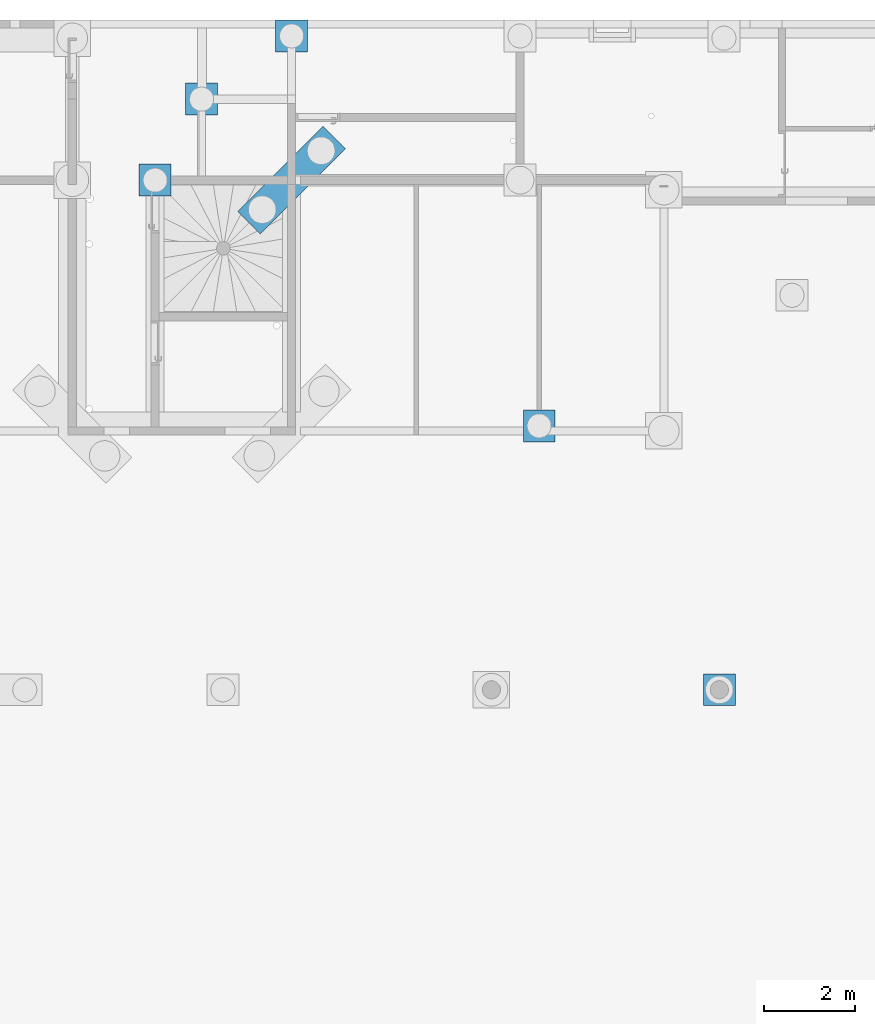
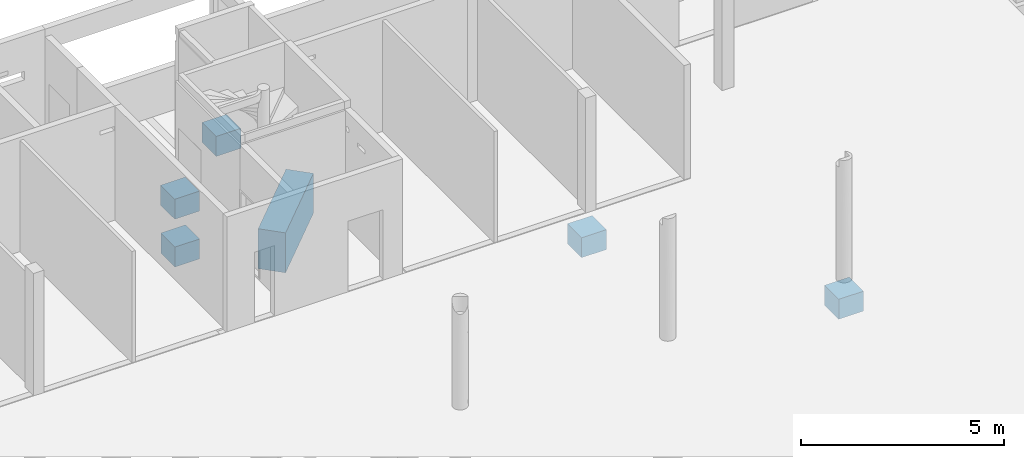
# One storey, part 19 of 29: 6 slabs.
"""IFC2X3 building model written with IfcOpenShell, lengths in centimetres."""

from ifc_helpers import new_model, entity, si_unit, converted_unit, derived_unit, direction, frame, origin, place, context, subcontext, project, spatial, faceted_brep, material, element, save


model = new_model("IFC2X3")

# Units and contexts
model_context = context("Model", 3, precision=0.001, world=origin(), true_north=direction((6.12303176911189e-17, 1.0)))
body_context = subcontext(model_context, "Body", "Model", "MODEL_VIEW")
ifc_project = project(units=[si_unit("LENGTHUNIT", "METRE", prefix="CENTI"), si_unit("AREAUNIT", "SQUARE_METRE"), si_unit("VOLUMEUNIT", "CUBIC_METRE"), converted_unit("PLANEANGLEUNIT", "DEGREE", entity("IfcRatioMeasure", 0.0174532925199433), si_unit("PLANEANGLEUNIT", "RADIAN"), dimensions=[0, 0, 0, 0, 0, 0, 0]), si_unit("MASSUNIT", "GRAM", prefix="KILO"), derived_unit("MASSDENSITYUNIT", [(si_unit("MASSUNIT", "GRAM", prefix="KILO"), 1), (si_unit("LENGTHUNIT", "METRE"), -3)]), si_unit("TIMEUNIT", "SECOND"), si_unit("FREQUENCYUNIT", "HERTZ"), si_unit("THERMODYNAMICTEMPERATUREUNIT", "DEGREE_CELSIUS"), derived_unit("THERMALTRANSMITTANCEUNIT", [(si_unit("MASSUNIT", "GRAM", prefix="KILO"), 1), (si_unit("THERMODYNAMICTEMPERATUREUNIT", "KELVIN"), -1), (si_unit("TIMEUNIT", "SECOND"), -3)]), derived_unit("VOLUMETRICFLOWRATEUNIT", [(si_unit("LENGTHUNIT", "METRE"), 3), (si_unit("TIMEUNIT", "SECOND"), -1)]), si_unit("ELECTRICCURRENTUNIT", "AMPERE"), si_unit("ELECTRICVOLTAGEUNIT", "VOLT"), si_unit("POWERUNIT", "WATT"), si_unit("FORCEUNIT", "NEWTON"), si_unit("ILLUMINANCEUNIT", "LUX"), si_unit("LUMINOUSFLUXUNIT", "LUMEN"), si_unit("LUMINOUSINTENSITYUNIT", "CANDELA"), derived_unit("USERDEFINED", [(si_unit("MASSUNIT", "GRAM", prefix="KILO"), -1), (si_unit("LENGTHUNIT", "METRE"), -2), (si_unit("TIMEUNIT", "SECOND"), 3), (si_unit("LUMINOUSFLUXUNIT", "LUMEN"), 1)]), derived_unit("LINEARVELOCITYUNIT", [(si_unit("LENGTHUNIT", "METRE"), 1), (si_unit("TIMEUNIT", "SECOND"), -1)]), si_unit("PRESSUREUNIT", "PASCAL"), derived_unit("USERDEFINED", [(si_unit("LENGTHUNIT", "METRE"), -2), (si_unit("MASSUNIT", "GRAM", prefix="KILO"), 1), (si_unit("TIMEUNIT", "SECOND"), -2)])], contexts=[model_context])

# Site, building, storey
site_placement = place(None, origin())
site = spatial("IfcSite", under=ifc_project, at=site_placement, Name="Default", CompositionType="ELEMENT")
building_placement = place(site_placement, origin())
building = spatial("IfcBuilding", under=site, at=building_placement, Name="CAGE 03", CompositionType="ELEMENT")
storey_placement = place(building_placement, frame((0.0, 0.0, -26.0)))
storey = spatial("IfcBuildingStorey", under=building, at=storey_placement, Name="+3.74", CompositionType="ELEMENT", Elevation=-26.0000000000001)

# Slabs
ifc_material = material(Name="Béton, C25/30")
slab_1_placement = place(storey_placement, frame((8227.36582014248, 3786.6606660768, -92.0)))
element("IfcSlab", 1, at=slab_1_placement, inside=storey, material=ifc_material, Name="M_Base-Rectangulaire:70x70x60ht", ObjectType="M_Base-Rectangulaire:70x70x60ht", PredefinedType="BASESLAB", context=body_context, shape_type="Brep", body=[
    faceted_brep([(70.0, 70.0, 60.0), (0.0, 70.0, 60.0), (0.0, 0.0, 60.0), (70.0, 0.0, 60.0), (0.0, 0.0, 0.0), (4.50000000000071, 35.0, 0.0), (6.73331079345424, 29.6083107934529, 0.0), (0.0, 70.0, 0.0), (8.96662158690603, 24.2166215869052, 0.0), (11.1999323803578, 18.8249323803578, 0.0), (13.4332431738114, 13.4332431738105, 0.0), (18.8249323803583, 11.1999323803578, 0.0), (24.2166215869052, 8.96662158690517, 0.0), (29.6083107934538, 6.73331079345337, 0.0), (35.0, 4.50000000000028, 0.0), (70.0, 0.0, 0.0), (6.73331079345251, 40.3916892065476, 0.0), (8.96662158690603, 45.7833784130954, 0.0), (11.1999323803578, 51.1750676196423, 0.0), (13.4332431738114, 56.5667568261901, 0.0), (18.8249323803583, 58.8000676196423, 0.0), (24.2166215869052, 61.0333784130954, 0.0), (29.6083107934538, 63.266689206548, 0.0), (35.0, 65.5000000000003, 0.0), (70.0, 70.0, 0.0), (65.5000000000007, 35.0, 0.0), (63.2666892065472, 40.3916892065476, 0.0), (61.0333784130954, 45.7833784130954, 0.0), (58.8000676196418, 51.1750676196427, 0.0), (56.5667568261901, 56.5667568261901, 0.0), (51.1750676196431, 58.8000676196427, 0.0), (45.7833784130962, 61.0333784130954, 0.0), (40.3916892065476, 63.2666892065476, 0.0), (40.3916892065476, 6.73331079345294, 0.0), (45.7833784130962, 8.96662158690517, 0.0), (51.1750676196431, 11.199932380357, 0.0), (56.5667568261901, 13.4332431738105, 0.0), (58.8000676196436, 18.8249323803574, 0.0), (61.0333784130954, 24.2166215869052, 0.0), (63.2666892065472, 29.6083107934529, 0.0), (35.0, 65.5000000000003, 5.0), (40.3916892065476, 63.266689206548, 5.0), (45.7833784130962, 61.0333784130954, 5.0), (51.1750676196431, 58.8000676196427, 5.0), (56.5667568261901, 56.5667568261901, 5.0), (59.8147856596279, 48.7253215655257, 5.0), (62.6573928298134, 41.8626607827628, 5.0), (65.5000000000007, 35.0, 5.0), (62.6573928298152, 28.1373392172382, 5.0), (61.0333784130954, 24.2166215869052, 5.0), (58.8000676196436, 18.8249323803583, 5.0), (56.5667568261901, 13.4332431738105, 5.0), (51.1750676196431, 11.1999323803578, 5.0), (45.7833784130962, 8.96662158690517, 5.0), (40.3916892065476, 6.73331079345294, 5.0), (35.0, 4.50000000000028, 5.0), (29.6083107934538, 6.73331079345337, 5.0), (24.2166215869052, 8.9666215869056, 5.0), (18.8249323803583, 11.1999323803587, 5.0), (13.4332431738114, 13.4332431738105, 5.0), (10.1852143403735, 21.2746784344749, 5.0), (7.34260717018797, 28.1373392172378, 5.0), (4.50000000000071, 35.0, 5.0), (7.34260717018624, 41.8626607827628, 5.0), (8.9666215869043, 45.7833784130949, 5.0), (11.1999323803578, 51.1750676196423, 5.0), (13.4332431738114, 56.5667568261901, 5.0), (18.8249323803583, 58.8000676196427, 5.0), (24.2166215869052, 61.0333784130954, 5.0), (29.6083107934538, 63.266689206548, 5.0)], [[[0, 1, 2, 3]], [[4, 5, 6]], [[5, 4, 7]], [[4, 6, 8]], [[4, 8, 9]], [[4, 9, 10]], [[4, 10, 11]], [[4, 11, 12]], [[4, 12, 13]], [[4, 13, 14]], [[14, 15, 4]], [[7, 16, 5]], [[7, 17, 16]], [[7, 18, 17]], [[7, 19, 18]], [[7, 20, 19]], [[7, 21, 20]], [[7, 22, 21]], [[7, 23, 22]], [[23, 7, 24]], [[25, 24, 15]], [[24, 25, 26]], [[24, 26, 27]], [[24, 27, 28]], [[24, 28, 29]], [[24, 29, 30]], [[24, 30, 31]], [[24, 31, 32]], [[24, 32, 23]], [[15, 14, 33]], [[15, 33, 34]], [[15, 34, 35]], [[15, 35, 36]], [[15, 36, 37]], [[15, 37, 38]], [[15, 38, 39]], [[15, 39, 25]], [[2, 1, 7, 4]], [[3, 2, 4, 15]], [[0, 3, 15, 24]], [[1, 0, 24, 7]], [[40, 41, 42, 43, 44, 45, 46, 47, 48, 49, 50, 51, 52, 53, 54, 55, 56, 57, 58, 59, 60, 61, 62, 63, 64, 65, 66, 67, 68, 69]], [[10, 59, 58, 57, 56, 55, 14, 13, 12, 11]], [[39, 38, 37, 36, 51, 50, 49, 48, 47, 25]], [[10, 9, 8, 6, 5, 62, 61, 60, 59]], [[33, 14, 55, 54, 53, 52, 51, 36, 35, 34]], [[29, 44, 43, 42, 41, 40, 23, 32, 31, 30]], [[16, 17, 18, 19, 66, 65, 64, 63, 62, 5]], [[29, 28, 27, 26, 25, 47, 46, 45, 44]], [[22, 23, 40, 69, 68, 67, 66, 19, 20, 21]]]),
])
slab_2_placement = place(storey_placement, frame((7287.36582014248, 5223.6606660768, -145.0)))
element("IfcSlab", 2, at=slab_2_placement, inside=storey, material=ifc_material, Name="M_Base-Rectangulaire:70x70x60ht", ObjectType="M_Base-Rectangulaire:70x70x60ht", PredefinedType="BASESLAB", context=body_context, shape_type="Brep", body=[
    faceted_brep([(44.0, 70.0, 60.0), (0.0, 70.0, 60.0), (0.0, 0.0, 60.0), (70.0, 0.0, 60.0), (70.0, 70.0, 60.0), (0.0, 0.0, 0.0), (17.2680389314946, 15.306662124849, 0.0), (22.3935302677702, 13.6412890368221, 0.0), (27.5190216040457, 11.9759159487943, 0.0), (32.644512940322, 10.3105428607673, 0.0), (37.7700042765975, 8.64516977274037, 0.0), (70.0, 0.0, 0.0), (15.0760291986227, 20.2299965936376, 0.0), (12.8840194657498, 25.1533310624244, 0.0), (10.6920097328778, 30.0766655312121, 0.0), (8.500000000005, 35.0, 0.0), (0.0, 70.0, 0.0), (11.0305248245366, 42.7881545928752, 0.0), (13.561049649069, 50.5763091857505, 0.0), (18.2282861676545, 53.2709394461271, 0.0), (22.8955226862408, 55.9655697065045, 0.0), (27.5627592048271, 58.6601999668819, 0.0), (32.2299957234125, 61.3548302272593, 0.0), (70.0, 70.0, 0.0), (61.5000000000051, 35.0, 0.0), (59.3079902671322, 39.9233344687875, 0.0), (37.3554870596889, 59.6894571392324, 0.0), (42.4809783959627, 58.0240840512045, 0.0), (47.606469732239, 56.3587109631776, 0.0), (52.7319610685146, 54.6933378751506, 0.0), (57.1159805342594, 44.8466689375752, 0.0), (54.9239708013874, 49.7700034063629, 0.0), (42.4372407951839, 11.3398000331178, 0.0), (47.1044773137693, 14.0344302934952, 0.0), (51.7717138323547, 16.7290605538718, 0.0), (56.438950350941, 19.4236908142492, 0.0), (58.9694751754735, 27.2118454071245, 0.0), (8.500000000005, 35.0, 5.0), (10.692009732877, 39.9233344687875, 5.0), (12.8840194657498, 44.8466689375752, 5.0), (15.0760291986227, 49.7700034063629, 5.0), (17.2680389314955, 54.6933378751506, 5.0), (22.393530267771, 56.3587109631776, 5.0), (27.5190216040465, 58.0240840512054, 5.0), (32.644512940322, 59.6894571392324, 5.0), (37.7700042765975, 61.3548302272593, 5.0), (42.4372407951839, 58.6601999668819, 5.0), (47.1044773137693, 55.9655697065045, 5.0), (51.7717138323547, 53.2709394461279, 5.0), (56.438950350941, 50.5763091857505, 5.0), (58.9694751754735, 42.7881545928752, 5.0), (61.5000000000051, 35.0, 5.0), (59.3079902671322, 30.0766655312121, 5.0), (57.1159805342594, 25.1533310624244, 5.0), (54.9239708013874, 20.2299965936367, 5.0), (52.7319610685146, 15.306662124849, 5.0), (47.606469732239, 13.6412890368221, 5.0), (42.4809783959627, 11.9759159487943, 5.0), (37.3554870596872, 10.3105428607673, 5.0), (32.2299957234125, 8.64516977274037, 5.0), (27.5627592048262, 11.3398000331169, 5.0), (22.8955226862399, 14.0344302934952, 5.0), (18.2282861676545, 16.7290605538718, 5.0), (13.561049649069, 19.4236908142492, 5.0), (11.0305248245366, 27.2118454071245, 5.0)], [[[0, 1, 2, 3, 4]], [[5, 6, 7]], [[5, 7, 8]], [[5, 8, 9]], [[5, 9, 10]], [[5, 10, 11]], [[5, 12, 6]], [[5, 13, 12]], [[5, 14, 13]], [[5, 15, 14]], [[16, 15, 5]], [[16, 17, 15]], [[16, 18, 17]], [[16, 19, 18]], [[16, 20, 19]], [[16, 21, 20]], [[16, 22, 21]], [[23, 22, 16]], [[11, 24, 23]], [[23, 24, 25]], [[23, 26, 22]], [[23, 27, 26]], [[23, 28, 27]], [[23, 29, 28]], [[23, 25, 30]], [[23, 30, 31]], [[23, 31, 29]], [[11, 10, 32]], [[11, 32, 33]], [[11, 33, 34]], [[11, 34, 35]], [[11, 35, 36]], [[11, 36, 24]], [[2, 1, 16, 5]], [[3, 2, 5, 11]], [[4, 3, 11, 23]], [[0, 4, 23, 16, 1]], [[37, 38, 39, 40, 41, 42, 43, 44, 45, 46, 47, 48, 49, 50, 51, 52, 53, 54, 55, 56, 57, 58, 59, 60, 61, 62, 63, 64]], [[12, 13, 63]], [[64, 14, 37]], [[64, 63, 13]], [[63, 62, 12]], [[36, 35, 53]], [[60, 59, 8]], [[37, 14, 15]], [[33, 56, 34]], [[7, 6, 61]], [[35, 34, 55]], [[36, 52, 24]], [[8, 59, 9]], [[61, 6, 62]], [[13, 14, 64]], [[58, 9, 59]], [[62, 6, 12]], [[57, 56, 33]], [[7, 60, 8]], [[55, 34, 56]], [[54, 53, 35, 55]], [[58, 10, 9]], [[32, 10, 57, 33]], [[7, 61, 60]], [[51, 24, 52]], [[58, 57, 10]], [[36, 53, 52]], [[31, 30, 49]], [[50, 25, 51]], [[50, 49, 30]], [[49, 48, 31]], [[47, 29, 48]], [[46, 28, 47]], [[51, 25, 24]], [[22, 44, 21]], [[46, 45, 27]], [[40, 39, 18, 41]], [[17, 38, 15]], [[27, 45, 26]], [[30, 25, 50]], [[44, 22, 26]], [[48, 29, 31]], [[43, 42, 20]], [[28, 29, 47]], [[17, 18, 39]], [[46, 27, 28]], [[37, 15, 38]], [[43, 21, 44]], [[41, 19, 42]], [[20, 42, 19]], [[41, 18, 19]], [[44, 26, 45]], [[43, 20, 21]], [[17, 39, 38]]]),
])
slab_3_placement = place(storey_placement, frame((7089.36582014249, 5084.6606660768, -180.0)))
element("IfcSlab", 3, at=slab_3_placement, inside=storey, material=ifc_material, Name="M_Base-Rectangulaire:70x70x60ht", ObjectType="M_Base-Rectangulaire:70x70x60ht", PredefinedType="BASESLAB", context=body_context, shape_type="Brep", body=[
    faceted_brep([(70.0, 70.0, 60.0), (0.0, 70.0, 60.0), (0.0, 0.0, 60.0), (70.0, 0.0, 60.0), (0.0, 0.0, 0.0), (8.50000000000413, 35.0, 0.0), (10.692009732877, 30.0766655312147, 0.0), (0.0, 70.0, 0.0), (12.884019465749, 25.153331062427, 0.0), (15.0760291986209, 20.2299965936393, 0.0), (17.2680389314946, 15.3066621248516, 0.0), (22.3935302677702, 13.6412890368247, 0.0), (27.5190216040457, 11.9759159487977, 0.0), (32.6445129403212, 10.3105428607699, 0.0), (37.7700042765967, 8.64516977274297, 0.0), (70.0, 0.0, 0.0), (11.0305248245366, 42.7881545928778, 0.0), (13.5610496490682, 50.5763091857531, 0.0), (18.2282861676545, 53.2709394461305, 0.0), (22.8955226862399, 55.9655697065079, 0.0), (27.5627592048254, 58.6601999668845, 0.0), (32.2299957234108, 61.3548302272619, 0.0), (70.0, 70.0, 0.0), (61.5000000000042, 35.0, 0.0), (59.3079902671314, 39.9233344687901, 0.0), (57.1159805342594, 44.8466689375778, 0.0), (54.9239708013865, 49.7700034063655, 0.0), (52.7319610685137, 54.6933378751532, 0.0), (47.6064697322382, 56.3587109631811, 0.0), (42.4809783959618, 58.0240840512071, 0.0), (37.3554870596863, 59.689457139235, 0.0), (42.4372407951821, 11.3398000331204, 0.0), (47.1044773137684, 14.0344302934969, 0.0), (51.7717138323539, 16.7290605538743, 0.0), (56.4389503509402, 19.4236908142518, 0.0), (58.9694751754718, 27.2118454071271, 0.0), (8.50000000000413, 35.0, 5.0), (11.3061340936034, 28.6973196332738, 5.0), (14.1122681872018, 22.3946392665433, 5.0), (17.2680389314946, 15.3066621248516, 5.0), (37.7700042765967, 8.64516977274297, 5.0), (42.4372407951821, 11.3398000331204, 5.0), (47.1044773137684, 14.0344302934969, 5.0), (51.7717138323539, 16.7290605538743, 5.0), (56.4389503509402, 19.4236908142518, 5.0), (32.6445129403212, 10.3105428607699, 5.0), (22.3935302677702, 13.6412890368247, 5.0), (27.5190216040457, 11.9759159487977, 5.0), (58.9694751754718, 27.2118454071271, 5.0), (61.5000000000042, 35.0, 5.0), (58.6938659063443, 41.3026803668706, 5.0), (55.8877318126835, 47.6053607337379, 5.0), (52.7319610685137, 54.6933378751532, 5.0), (32.2299957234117, 61.3548302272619, 5.0), (27.5627592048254, 58.6601999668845, 5.0), (22.8955226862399, 55.9655697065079, 5.0), (18.2282861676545, 53.2709394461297, 5.0), (13.5610496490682, 50.5763091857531, 5.0), (37.3554870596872, 59.689457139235, 5.0), (47.6064697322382, 56.3587109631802, 5.0), (42.4809783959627, 58.0240840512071, 5.0), (11.0305248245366, 42.7881545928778, 5.0)], [[[0, 1, 2, 3]], [[4, 5, 6]], [[5, 4, 7]], [[4, 6, 8]], [[4, 8, 9]], [[4, 9, 10]], [[4, 10, 11]], [[4, 11, 12]], [[4, 12, 13]], [[4, 13, 14]], [[14, 15, 4]], [[7, 16, 5]], [[7, 17, 16]], [[7, 18, 17]], [[7, 19, 18]], [[7, 20, 19]], [[7, 21, 20]], [[21, 7, 22]], [[23, 22, 15]], [[22, 23, 24]], [[22, 24, 25]], [[22, 25, 26]], [[22, 26, 27]], [[22, 27, 28]], [[22, 28, 29]], [[22, 29, 30]], [[22, 30, 21]], [[15, 14, 31]], [[15, 31, 32]], [[15, 32, 33]], [[15, 33, 34]], [[15, 34, 35]], [[15, 35, 23]], [[2, 1, 7, 4]], [[3, 2, 4, 15]], [[0, 3, 15, 22]], [[1, 0, 22, 7]], [[10, 9, 8, 6, 5, 36, 37, 38, 39]], [[33, 32, 31, 14, 40, 41, 42, 43, 44, 34]], [[45, 40, 14, 13, 12, 11, 10, 39, 46, 47]], [[35, 34, 44, 48, 49, 23]], [[27, 26, 25, 24, 23, 49, 50, 51, 52]], [[18, 19, 20, 21, 53, 54, 55, 56, 57, 17]], [[58, 53, 21, 30, 29, 28, 27, 52, 59, 60]], [[16, 17, 57, 61, 36, 5]], [[39, 38, 37, 36, 61, 57, 56, 55, 54, 53, 58, 60, 59, 52, 51, 50, 49, 48, 44, 43, 42, 41, 40, 45, 47, 46]]]),
])
slab_4_placement = place(storey_placement, frame((7203.92543429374, 4823.22028022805, -240.0)))
element("IfcSlab", 4, at=slab_4_placement, inside=storey, material=ifc_material, Name="M_Base-Rectangulaire:265x70x120ht", ObjectType="M_Base-Rectangulaire:265x70x120ht", PredefinedType="BASESLAB", context=body_context, shape_type="Brep", body=[
    faceted_brep([(187.383297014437, 236.880771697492, 120.0), (0.0, 49.4974746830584, 120.0), (49.4974746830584, 0.0, 120.0), (236.880771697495, 187.383297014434, 120.0), (49.4974746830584, 0.0, 0.0), (75.3068721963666, 32.1733585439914, 0.0), (204.707413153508, 161.573899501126, 0.0), (236.880771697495, 187.383297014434, 0.0), (69.9151829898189, 29.9400477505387, 0.0), (64.523493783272, 27.7067369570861, 0.0), (59.1318045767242, 25.4734261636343, 0.0), (53.7401153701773, 23.2401153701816, 0.0), (48.3484261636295, 25.4734261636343, 0.0), (42.9567369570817, 27.7067369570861, 0.0), (37.5650477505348, 29.9400477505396, 0.0), (32.1733585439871, 32.1733585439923, 0.0), (0.0, 49.4974746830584, 0.0), (29.9400477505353, 37.56504775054, 0.0), (27.7067369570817, 42.9567369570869, 0.0), (25.4734261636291, 48.3484261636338, 0.0), (23.2401153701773, 53.7401153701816, 0.0), (25.4734261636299, 59.1318045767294, 0.0), (27.7067369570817, 64.5234937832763, 0.0), (29.9400477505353, 69.9151829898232, 0.0), (32.1733585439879, 75.306872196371, 0.0), (161.573899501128, 204.707413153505, 0.0), (187.383297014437, 236.880771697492, 0.0), (204.707413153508, 204.707413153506, 0.0), (199.315723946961, 206.940723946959, 0.0), (166.965588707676, 206.940723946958, 0.0), (172.357277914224, 209.174034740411, 0.0), (177.748967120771, 211.407345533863, 0.0), (183.140656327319, 213.640656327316, 0.0), (193.924034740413, 209.174034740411, 0.0), (188.532345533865, 211.407345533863, 0.0), (159.340588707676, 199.315723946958, 0.0), (157.107277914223, 193.924034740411, 0.0), (154.873967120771, 188.532345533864, 0.0), (152.640656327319, 183.140656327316, 0.0), (37.5650477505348, 77.5401829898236, 0.0), (42.9567369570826, 79.7734937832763, 0.0), (48.3484261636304, 82.0068045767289, 0.0), (53.7401153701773, 84.2401153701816, 0.0), (59.1318045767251, 82.0068045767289, 0.0), (64.523493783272, 79.7734937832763, 0.0), (69.9151829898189, 77.5401829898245, 0.0), (75.3068721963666, 75.3068721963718, 0.0), (154.873967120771, 177.748967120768, 0.0), (157.107277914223, 172.357277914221, 0.0), (159.340588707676, 166.965588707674, 0.0), (161.573899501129, 161.573899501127, 0.0), (166.965588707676, 159.340588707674, 0.0), (172.357277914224, 157.107277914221, 0.0), (177.748967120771, 154.873967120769, 0.0), (183.140656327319, 152.640656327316, 0.0), (77.5401829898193, 37.5650477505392, 0.0), (188.532345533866, 154.873967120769, 0.0), (77.5401829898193, 69.915182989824, 0.0), (79.7734937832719, 64.5234937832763, 0.0), (82.0068045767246, 59.1318045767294, 0.0), (84.2401153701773, 53.7401153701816, 0.0), (79.7734937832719, 42.9567369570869, 0.0), (82.0068045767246, 48.3484261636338, 0.0), (193.924034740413, 157.10727791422, 0.0), (199.31572394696, 159.340588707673, 0.0), (206.940723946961, 166.965588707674, 0.0), (209.174034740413, 172.357277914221, 0.0), (211.407345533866, 177.748967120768, 0.0), (213.640656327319, 183.140656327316, 0.0), (211.407345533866, 188.532345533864, 0.0), (209.174034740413, 193.924034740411, 0.0), (206.940723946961, 199.315723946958, 0.0), (32.1733585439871, 32.1733585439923, 5.0), (37.565047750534, 29.9400477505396, 5.0), (42.9567369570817, 27.7067369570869, 5.0), (48.3484261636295, 25.4734261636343, 5.0), (53.7401153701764, 23.2401153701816, 5.0), (75.3068721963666, 32.1733585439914, 5.0), (77.5401829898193, 37.5650477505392, 5.0), (79.7734937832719, 42.9567369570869, 5.0), (81.3975081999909, 46.8774545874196, 5.0), (84.2401153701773, 53.7401153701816, 5.0), (23.2401153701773, 53.7401153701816, 5.0), (26.0827225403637, 46.8774545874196, 5.0), (28.9253297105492, 40.0147938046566, 5.0), (59.1318045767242, 25.4734261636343, 5.0), (64.523493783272, 27.7067369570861, 5.0), (69.9151829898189, 29.9400477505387, 5.0), (75.3068721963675, 75.306872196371, 5.0), (69.9151829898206, 77.5401829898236, 5.0), (64.5234937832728, 79.7734937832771, 5.0), (59.1318045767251, 82.0068045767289, 5.0), (53.7401153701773, 84.2401153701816, 5.0), (32.1733585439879, 75.3068721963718, 5.0), (29.9400477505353, 69.9151829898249, 5.0), (27.7067369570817, 64.5234937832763, 5.0), (26.0827225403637, 60.6027761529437, 5.0), (81.3975081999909, 60.6027761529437, 5.0), (78.5549010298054, 67.4654369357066, 5.0), (48.3484261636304, 82.0068045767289, 5.0), (42.9567369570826, 79.7734937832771, 5.0), (37.5650477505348, 77.5401829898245, 5.0), (161.573899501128, 161.573899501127, 5.0), (166.965588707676, 159.340588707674, 5.0), (172.357277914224, 157.107277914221, 5.0), (177.748967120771, 154.873967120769, 5.0), (183.140656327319, 152.640656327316, 5.0), (204.707413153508, 161.573899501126, 5.0), (206.940723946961, 166.965588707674, 5.0), (209.174034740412, 172.357277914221, 5.0), (210.798049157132, 176.277995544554, 5.0), (213.640656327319, 183.140656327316, 5.0), (152.640656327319, 183.140656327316, 5.0), (155.483263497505, 176.277995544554, 5.0), (158.325870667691, 169.41533476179, 5.0), (188.532345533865, 154.873967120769, 5.0), (193.924034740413, 157.10727791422, 5.0), (199.315723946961, 159.340588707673, 5.0), (204.707413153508, 204.707413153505, 5.0), (199.315723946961, 206.940723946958, 5.0), (193.924034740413, 209.174034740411, 5.0), (188.532345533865, 211.407345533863, 5.0), (183.140656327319, 213.640656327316, 5.0), (161.573899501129, 204.707413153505, 5.0), (159.340588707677, 199.315723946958, 5.0), (157.107277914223, 193.924034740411, 5.0), (155.483263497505, 190.003317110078, 5.0), (210.798049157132, 190.003317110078, 5.0), (207.955441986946, 196.865977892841, 5.0), (177.748967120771, 211.407345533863, 5.0), (172.357277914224, 209.174034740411, 5.0), (166.965588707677, 206.940723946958, 5.0)], [[[0, 1, 2, 3]], [[4, 5, 6]], [[6, 7, 4]], [[4, 8, 5]], [[4, 9, 8]], [[4, 10, 9]], [[4, 11, 10]], [[4, 12, 11]], [[4, 13, 12]], [[4, 14, 13]], [[4, 15, 14]], [[15, 4, 16]], [[16, 17, 15]], [[16, 18, 17]], [[16, 19, 18]], [[16, 20, 19]], [[16, 21, 20]], [[16, 22, 21]], [[16, 23, 22]], [[16, 24, 23]], [[24, 16, 25]], [[26, 25, 16]], [[27, 26, 7]], [[26, 27, 28]], [[26, 29, 25]], [[26, 30, 29]], [[26, 31, 30]], [[26, 32, 31]], [[26, 28, 33]], [[26, 33, 34]], [[26, 34, 32]], [[24, 25, 35]], [[24, 35, 36]], [[24, 36, 37]], [[24, 37, 38]], [[38, 39, 24]], [[38, 40, 39]], [[38, 41, 40]], [[38, 42, 41]], [[38, 43, 42]], [[38, 44, 43]], [[38, 45, 44]], [[38, 46, 45]], [[46, 38, 47]], [[46, 47, 48]], [[46, 48, 49]], [[46, 49, 50]], [[46, 50, 51]], [[46, 51, 52]], [[46, 52, 53]], [[46, 53, 54]], [[54, 5, 55]], [[5, 54, 56]], [[54, 57, 46]], [[54, 58, 57]], [[54, 59, 58]], [[54, 60, 59]], [[54, 55, 61]], [[54, 61, 62]], [[54, 62, 60]], [[5, 56, 63]], [[5, 63, 64]], [[5, 64, 6]], [[7, 6, 65]], [[7, 65, 66]], [[7, 66, 67]], [[7, 67, 68]], [[7, 68, 69]], [[7, 69, 70]], [[7, 70, 71]], [[7, 71, 27]], [[2, 1, 16, 4]], [[3, 2, 4, 7]], [[0, 3, 7, 26]], [[1, 0, 26, 16]], [[15, 72, 73, 74, 75, 76, 11, 12, 13, 14]], [[62, 61, 55, 5, 77, 78, 79, 80, 81, 60]], [[15, 17, 18, 19, 20, 82, 83, 84, 72]], [[10, 11, 76, 85, 86, 87, 77, 5, 8, 9]], [[46, 88, 89, 90, 91, 92, 42, 43, 44, 45]], [[21, 22, 23, 24, 93, 94, 95, 96, 82, 20]], [[46, 57, 58, 59, 60, 81, 97, 98, 88]], [[41, 42, 92, 99, 100, 101, 93, 24, 39, 40]], [[50, 102, 103, 104, 105, 106, 54, 53, 52, 51]], [[67, 66, 65, 6, 107, 108, 109, 110, 111, 68]], [[50, 49, 48, 47, 38, 112, 113, 114, 102]], [[56, 54, 106, 115, 116, 117, 107, 6, 64, 63]], [[27, 118, 119, 120, 121, 122, 32, 34, 33, 28]], [[37, 36, 35, 25, 123, 124, 125, 126, 112, 38]], [[27, 71, 70, 69, 68, 111, 127, 128, 118]], [[31, 32, 122, 129, 130, 131, 123, 25, 29, 30]], [[92, 91, 90, 89, 88, 98, 97, 81, 80, 79, 78, 77, 87, 86, 85, 76, 75, 74, 73, 72, 84, 83, 82, 96, 95, 94, 93, 101, 100, 99]], [[122, 121, 120, 119, 118, 128, 127, 111, 110, 109, 108, 107, 117, 116, 115, 106, 105, 104, 103, 102, 114, 113, 112, 126, 125, 124, 123, 131, 130, 129]]]),
])
slab_5_placement = place(storey_placement, frame((6987.36582014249, 4906.6606660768, -180.0)))
element("IfcSlab", 5, at=slab_5_placement, inside=storey, material=ifc_material, Name="M_Base-Rectangulaire:70x70x60ht", ObjectType="M_Base-Rectangulaire:70x70x60ht", PredefinedType="BASESLAB", context=body_context, shape_type="Brep", body=[
    faceted_brep([(70.0, 70.0, 60.0), (0.0, 70.0, 60.0), (0.0, 0.0, 60.0), (70.0, 0.0, 60.0), (0.0, 0.0, 0.0), (8.50000000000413, 35.0, 0.0), (10.692009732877, 30.0766655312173, 0.0), (0.0, 70.0, 0.0), (12.884019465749, 25.1533310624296, 0.0), (15.0760291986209, 20.2299965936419, 0.0), (17.2680389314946, 15.3066621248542, 0.0), (22.3935302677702, 13.6412890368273, 0.0), (27.5190216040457, 11.9759159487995, 0.0), (32.6445129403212, 10.3105428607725, 0.0), (37.7700042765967, 8.64516977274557, 0.0), (70.0, 0.0, 0.0), (11.0305248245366, 42.7881545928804, 0.0), (13.5610496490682, 50.5763091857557, 0.0), (18.2282861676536, 53.2709394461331, 0.0), (22.8955226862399, 55.9655697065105, 0.0), (27.5627592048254, 58.6601999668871, 0.0), (32.2299957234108, 61.3548302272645, 0.0), (70.0, 70.0, 0.0), (61.5000000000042, 35.0, 0.0), (59.3079902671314, 39.9233344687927, 0.0), (57.1159805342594, 44.8466689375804, 0.0), (54.9239708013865, 49.7700034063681, 0.0), (52.7319610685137, 54.6933378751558, 0.0), (47.6064697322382, 56.3587109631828, 0.0), (42.4809783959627, 58.0240840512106, 0.0), (37.3554870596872, 59.6894571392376, 0.0), (42.437240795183, 11.339800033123, 0.0), (47.1044773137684, 14.0344302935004, 0.0), (51.7717138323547, 16.7290605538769, 0.0), (56.4389503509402, 19.4236908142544, 0.0), (58.9694751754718, 27.2118454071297, 0.0), (8.50000000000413, 35.0, 5.0), (10.692009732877, 39.9233344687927, 5.0), (12.884019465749, 44.8466689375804, 5.0), (15.0760291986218, 49.7700034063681, 5.0), (17.2680389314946, 54.6933378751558, 5.0), (22.3935302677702, 56.3587109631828, 5.0), (27.5190216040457, 58.0240840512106, 5.0), (32.6445129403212, 59.6894571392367, 5.0), (37.7700042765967, 61.3548302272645, 5.0), (42.437240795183, 58.660199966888, 5.0), (47.1044773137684, 55.9655697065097, 5.0), (51.7717138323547, 53.2709394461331, 5.0), (56.4389503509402, 50.5763091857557, 5.0), (58.9694751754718, 42.7881545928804, 5.0), (61.5000000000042, 35.0, 5.0), (59.3079902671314, 30.0766655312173, 5.0), (57.1159805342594, 25.1533310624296, 5.0), (54.9239708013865, 20.2299965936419, 5.0), (52.7319610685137, 15.3066621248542, 5.0), (47.6064697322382, 13.6412890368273, 5.0), (42.4809783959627, 11.9759159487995, 5.0), (37.3554870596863, 10.3105428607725, 5.0), (32.2299957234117, 8.64516977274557, 5.0), (27.5627592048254, 11.339800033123, 5.0), (22.895522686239, 14.0344302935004, 5.0), (18.2282861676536, 16.7290605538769, 5.0), (13.5610496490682, 19.4236908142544, 5.0), (11.0305248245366, 27.2118454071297, 5.0)], [[[0, 1, 2, 3]], [[4, 5, 6]], [[5, 4, 7]], [[4, 6, 8]], [[4, 8, 9]], [[4, 9, 10]], [[4, 10, 11]], [[4, 11, 12]], [[4, 12, 13]], [[4, 13, 14]], [[14, 15, 4]], [[7, 16, 5]], [[7, 17, 16]], [[7, 18, 17]], [[7, 19, 18]], [[7, 20, 19]], [[7, 21, 20]], [[21, 7, 22]], [[23, 22, 15]], [[22, 23, 24]], [[22, 24, 25]], [[22, 25, 26]], [[22, 26, 27]], [[22, 27, 28]], [[22, 28, 29]], [[22, 29, 30]], [[22, 30, 21]], [[15, 14, 31]], [[15, 31, 32]], [[15, 32, 33]], [[15, 33, 34]], [[15, 34, 35]], [[15, 35, 23]], [[2, 1, 7, 4]], [[3, 2, 4, 15]], [[0, 3, 15, 22]], [[1, 0, 22, 7]], [[36, 37, 38, 39, 40, 41, 42, 43, 44, 45, 46, 47, 48, 49, 50, 51, 52, 53, 54, 55, 56, 57, 58, 59, 60, 61, 62, 63]], [[9, 8, 62]], [[63, 6, 36]], [[63, 62, 8]], [[62, 61, 9]], [[35, 34, 52]], [[59, 58, 12]], [[36, 6, 5]], [[32, 55, 33]], [[11, 10, 60]], [[34, 33, 54]], [[35, 51, 23]], [[12, 58, 13]], [[60, 10, 61]], [[8, 6, 63]], [[57, 13, 58]], [[61, 10, 9]], [[56, 55, 32]], [[11, 59, 12]], [[54, 33, 55]], [[53, 52, 34, 54]], [[57, 14, 13]], [[31, 14, 56, 32]], [[11, 60, 59]], [[50, 23, 51]], [[57, 56, 14]], [[35, 52, 51]], [[26, 25, 48]], [[49, 24, 50]], [[49, 48, 25]], [[48, 47, 26]], [[46, 27, 47]], [[45, 28, 46]], [[50, 24, 23]], [[21, 43, 20]], [[45, 44, 29]], [[39, 38, 17, 40]], [[16, 37, 5]], [[29, 44, 30]], [[25, 24, 49]], [[43, 21, 30]], [[47, 27, 26]], [[42, 41, 19]], [[28, 27, 46]], [[16, 17, 38]], [[45, 29, 28]], [[36, 5, 37]], [[42, 20, 43]], [[40, 18, 41]], [[19, 41, 18]], [[40, 17, 18]], [[43, 30, 44]], [[42, 19, 20]], [[16, 38, 37]]]),
])
slab_6_placement = place(storey_placement, frame((7831.36582014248, 4366.6606660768, -120.0)))
element("IfcSlab", 6, at=slab_6_placement, inside=storey, material=ifc_material, Name="M_Base-Rectangulaire:70x70x60ht", ObjectType="M_Base-Rectangulaire:70x70x60ht", PredefinedType="BASESLAB", context=body_context, shape_type="Brep", body=[
    faceted_brep([(70.0, 70.0, 60.0), (0.0, 70.0, 60.0), (0.0, 0.0, 60.0), (70.0, 0.0, 60.0), (0.0, 0.0, 0.0), (17.2680389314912, 15.306662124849, 0.0), (22.3935302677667, 13.6412890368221, 0.0), (27.5190216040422, 11.9759159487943, 0.0), (32.6445129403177, 10.3105428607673, 0.0), (37.7700042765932, 8.64516977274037, 0.0), (70.0, 0.0, 0.0), (15.0760291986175, 20.2299965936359, 0.0), (12.8840194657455, 25.1533310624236, 0.0), (10.6920097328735, 30.0766655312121, 0.0), (8.50000000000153, 35.0, 0.0), (0.0, 70.0, 0.0), (11.0305248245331, 42.788154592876, 0.0), (13.5610496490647, 50.5763091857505, 0.0), (18.2282861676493, 53.2709394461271, 0.0), (22.8955226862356, 55.9655697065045, 0.0), (27.5627592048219, 58.6601999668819, 0.0), (32.2299957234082, 61.3548302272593, 0.0), (70.0, 70.0, 0.0), (61.4999999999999, 35.0, 0.0), (59.3079902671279, 39.9233344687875, 0.0), (37.3554870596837, 59.6894571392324, 0.0), (42.4809783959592, 58.0240840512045, 0.0), (47.6064697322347, 56.3587109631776, 0.0), (52.7319610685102, 54.6933378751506, 0.0), (57.1159805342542, 44.8466689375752, 0.0), (54.9239708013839, 49.7700034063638, 0.0), (42.4372407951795, 11.3398000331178, 0.0), (47.1044773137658, 14.0344302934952, 0.0), (51.7717138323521, 16.7290605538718, 0.0), (56.4389503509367, 19.4236908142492, 0.0), (58.9694751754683, 27.2118454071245, 0.0), (8.4999999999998, 35.0, 5.0), (10.6920097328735, 39.9233344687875, 5.0), (12.8840194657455, 44.8466689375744, 5.0), (15.0760291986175, 49.7700034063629, 5.0), (17.2680389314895, 54.6933378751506, 5.0), (22.3935302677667, 56.3587109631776, 5.0), (27.5190216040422, 58.0240840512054, 5.0), (32.6445129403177, 59.6894571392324, 5.0), (37.7700042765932, 61.3548302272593, 5.0), (42.4372407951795, 58.6601999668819, 5.0), (47.1044773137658, 55.9655697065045, 5.0), (51.7717138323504, 53.2709394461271, 5.0), (56.4389503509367, 50.5763091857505, 5.0), (58.9694751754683, 42.7881545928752, 5.0), (61.4999999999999, 35.0, 5.0), (59.3079902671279, 30.0766655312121, 5.0), (57.1159805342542, 25.1533310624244, 5.0), (54.9239708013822, 20.2299965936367, 5.0), (52.7319610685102, 15.306662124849, 5.0), (47.6064697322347, 13.6412890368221, 5.0), (42.4809783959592, 11.9759159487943, 5.0), (37.3554870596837, 10.3105428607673, 5.0), (32.2299957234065, 8.64516977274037, 5.0), (27.5627592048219, 11.3398000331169, 5.0), (22.8955226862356, 14.0344302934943, 5.0), (18.2282861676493, 16.7290605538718, 5.0), (13.561049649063, 19.4236908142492, 5.0), (11.0305248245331, 27.2118454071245, 5.0)], [[[0, 1, 2, 3]], [[4, 5, 6]], [[4, 6, 7]], [[4, 7, 8]], [[4, 8, 9]], [[4, 9, 10]], [[4, 11, 5]], [[4, 12, 11]], [[4, 13, 12]], [[4, 14, 13]], [[15, 14, 4]], [[15, 16, 14]], [[15, 17, 16]], [[15, 18, 17]], [[15, 19, 18]], [[15, 20, 19]], [[15, 21, 20]], [[22, 21, 15]], [[10, 23, 22]], [[22, 23, 24]], [[22, 25, 21]], [[22, 26, 25]], [[22, 27, 26]], [[22, 28, 27]], [[22, 24, 29]], [[22, 29, 30]], [[22, 30, 28]], [[10, 9, 31]], [[10, 31, 32]], [[10, 32, 33]], [[10, 33, 34]], [[10, 34, 35]], [[10, 35, 23]], [[2, 1, 15, 4]], [[3, 2, 4, 10]], [[0, 3, 10, 22]], [[1, 0, 22, 15]], [[36, 37, 38, 39, 40, 41, 42, 43, 44, 45, 46, 47, 48, 49, 50, 51, 52, 53, 54, 55, 56, 57, 58, 59, 60, 61, 62, 63]], [[11, 12, 62]], [[63, 13, 36]], [[63, 62, 12]], [[62, 61, 11]], [[35, 34, 52]], [[59, 58, 7]], [[36, 13, 14]], [[32, 55, 33]], [[6, 5, 60]], [[34, 33, 54]], [[35, 51, 23]], [[7, 58, 8]], [[60, 5, 61]], [[12, 13, 63]], [[57, 8, 58]], [[61, 5, 11]], [[56, 55, 32]], [[6, 59, 7]], [[54, 33, 55]], [[53, 52, 34, 54]], [[57, 9, 8]], [[31, 9, 56, 32]], [[6, 60, 59]], [[50, 23, 51]], [[57, 56, 9]], [[35, 52, 51]], [[30, 29, 48]], [[49, 24, 50]], [[49, 48, 29]], [[48, 47, 30]], [[46, 28, 47]], [[45, 27, 46]], [[50, 24, 23]], [[21, 43, 20]], [[45, 44, 26]], [[39, 38, 17, 40]], [[16, 37, 14]], [[26, 44, 25]], [[29, 24, 49]], [[43, 21, 25]], [[47, 28, 30]], [[42, 41, 19]], [[27, 28, 46]], [[16, 17, 38]], [[45, 26, 27]], [[36, 14, 37]], [[42, 20, 43]], [[40, 18, 41]], [[19, 41, 18]], [[40, 17, 18]], [[43, 25, 44]], [[42, 19, 20]], [[16, 38, 37]]]),
])

save(model, "model.ifc")
